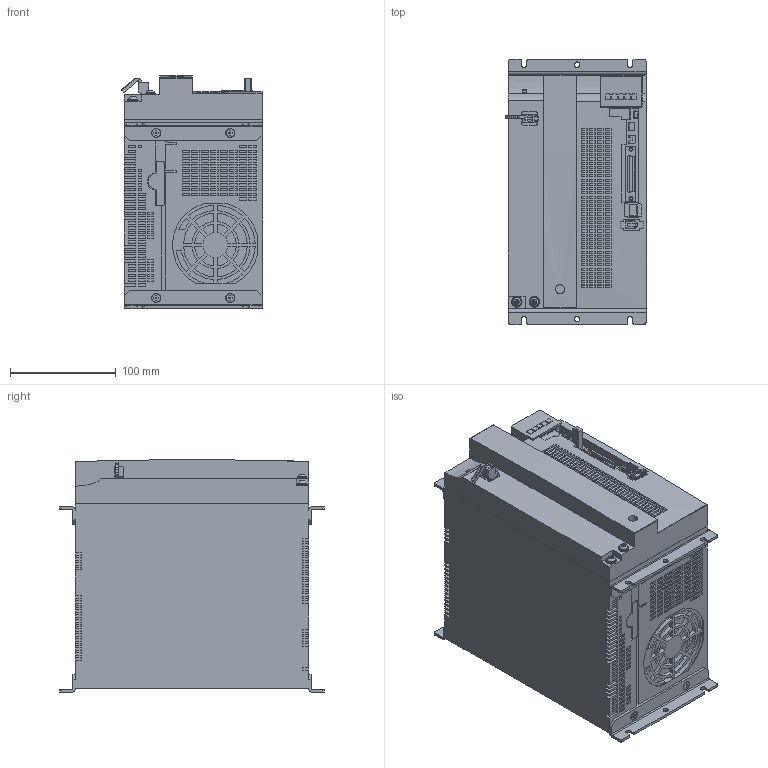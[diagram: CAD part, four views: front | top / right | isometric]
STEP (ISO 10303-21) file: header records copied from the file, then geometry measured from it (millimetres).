
FILE_DESCRIPTION(/* description */ ('STEP AP214'),/* implementation_level */ '2;1');
FILE_NAME(/* name */ 'MFDLTA4SF',/* time_stamp */ '2025-06-02T12:38:59+02:00',/* author */ ('License CC BY-ND 4.0'),/* organization */ ('CADENAS'),/* preprocessor_version */ 'ST-DEVELOPER v19.3',/* originating_system */ 'PARTsolutions',/* authorisation */ ' ');
FILE_SCHEMA (('AUTOMOTIVE_DESIGN {1 0 10303 214 3 1 1}'));
Length unit declared in the file: millimetre
Products named in the file (1): MFDLTA4SF
Bounding box: 132.25 x 250 x 219.13 mm (x, y, z)
Volume: 5771646.6 mm3; surface area: 297661.7 mm2
Topology: 1 solids, 2 shells, 3324 faces, 8307 edges, 5533 vertices
Faces by surface type: plane 3013, cylinder 298, cone 11, torus 2
Full cylindrical faces by diameter (mm): 2.4 x2, 2.6 x1, 3 x2, 3.8 x2, 5.2 x4, 5.5 x1, 6.5 x1, 6.9 x2, 7.6 x1, 7.73 x2, 8 x10, 8.6 x1, 9.2 x2, 10 x2
Entity records: 97640 total; most frequent: CARTESIAN_POINT 17233, ORIENTED_EDGE 16510, DIRECTION 15783, EDGE_CURVE 8255, LINE 7307, VECTOR 7307, VERTEX_POINT 5527, AXIS2_PLACEMENT_3D 4238
